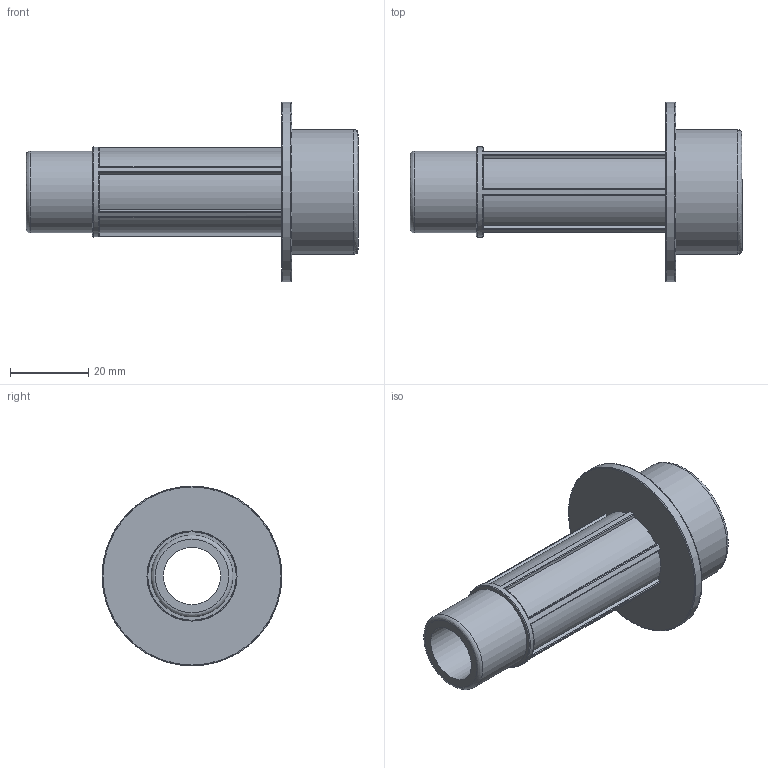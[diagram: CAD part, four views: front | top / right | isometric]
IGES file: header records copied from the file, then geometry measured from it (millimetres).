
Global section: file name: 078901032005.ipt; native system: Autodesk Inventor 2015; preprocessor: unknown; author: KIM; date: 20180409.130841; units: millimetre
Bounding box: 85 x 46 x 46 mm (x, y, z)
Volume: 26687.4 mm3; surface area: 13856.3 mm2
Topology: 1 solids, 1 shells, 57 faces, 163 edges, 111 vertices
Faces by surface type: plane 23, cylinder 22, revolution 12
Full cylindrical faces by diameter (mm): 20.955 x1, 23.05 x1, 32 x1, 46 x1
